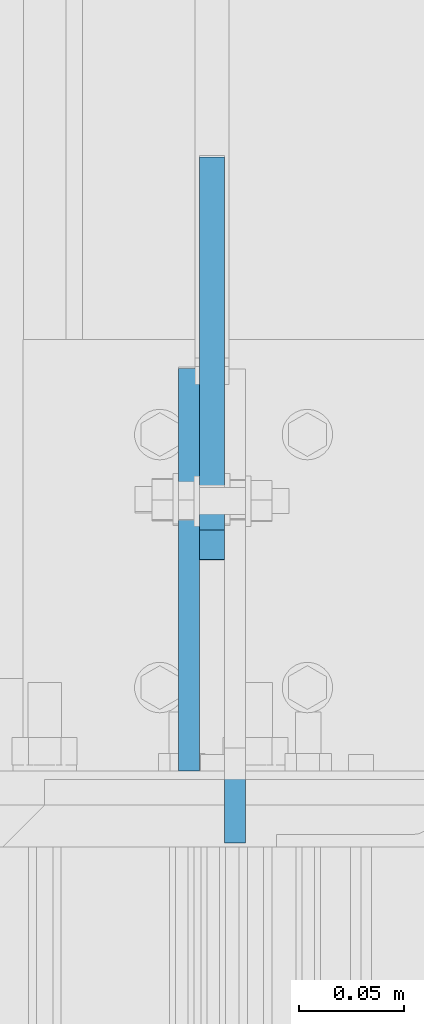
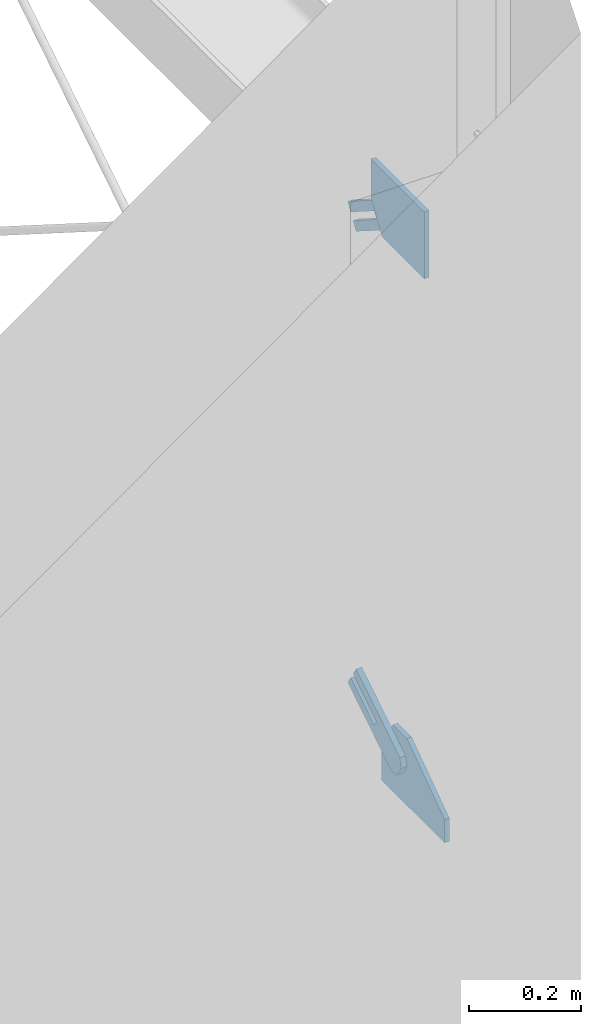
# One storey, part 158 of 271: 4 plates, 4 elements without a shape of their own.
"""IFC2X3 building model written with IfcOpenShell, lengths in millimetres."""

from ifc_helpers import new_model, si_unit, frame, origin_with_axes, place, context, subcontext, project, spatial, polyline, outline, extrude, material, type_object, element, aggregate, save


model = new_model("IFC2X3")

# Units and contexts
model_context = context("Model", 3, precision=1e-05, world=origin_with_axes())
body_context = subcontext(model_context, "Body", "Model", "MODEL_VIEW")
ifc_project = project(units=[si_unit("LENGTHUNIT", "METRE", prefix="MILLI"), si_unit("AREAUNIT", "SQUARE_METRE"), si_unit("VOLUMEUNIT", "CUBIC_METRE"), si_unit("MASSUNIT", "GRAM", prefix="KILO"), si_unit("TIMEUNIT", "SECOND"), si_unit("PLANEANGLEUNIT", "RADIAN"), si_unit("SOLIDANGLEUNIT", "STERADIAN"), si_unit("THERMODYNAMICTEMPERATUREUNIT", "DEGREE_CELSIUS"), si_unit("LUMINOUSINTENSITYUNIT", "LUMEN")], contexts=[model_context])

# Site, building, storey
site_placement = place(None, origin_with_axes())
site = spatial("IfcSite", under=ifc_project, at=site_placement, Name="Undefined", CompositionType="ELEMENT")
building_placement = place(site_placement, origin_with_axes())
building = spatial("IfcBuilding", under=site, at=building_placement, Name="Undefined", CompositionType="ELEMENT")
storey_placement = place(building_placement, origin_with_axes())
storey = spatial("IfcBuildingStorey", under=building, at=storey_placement, Name="Undefined", CompositionType="ELEMENT", Elevation=0.0)

# Assembly, plate
assembly_1_placement = place(storey_placement, origin_with_axes())
assembly_1 = element("IfcElementAssembly", 1, at=assembly_1_placement, inside=storey, AssemblyPlace="NOTDEFINED", PredefinedType="RIGID_FRAME")
ifc_material = material(Name="STEEL/S355JR")
plate_type_1 = type_object("IfcPlateType", Name="BL12*56", PredefinedType="NOTDEFINED")
plate_1_placement = place(assembly_1_placement, frame((12597.7513748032, 169.943266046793, 57.9975013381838), z_axis=(-1.0, 0.0, 1.38777878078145e-17), x_axis=(0.0, -0.975225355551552, 0.221213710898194)))
plate_1 = element("IfcPlate", 2, at=plate_1_placement, type_object=plate_type_1, material=ifc_material, Name="BLACHA", ObjectType="BL12*56", context=body_context, shape_type="SweptSolid", body=[
    extrude(outline(polyline([(0.0, 0.0), (21.2132034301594, 1.09139364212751e-11), (39.5979804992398, 18.3847751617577), (39.5979804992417, 39.5979804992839), (-91.2167739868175, 170.412734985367), (-105.358909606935, 156.270599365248), (-34.6482315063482, 85.5599212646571), (-45.9619407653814, 74.2462158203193), (-116.672622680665, 144.95689392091), (-130.814758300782, 130.814758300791), (0.0, 0.0)])), frame((0.0, 0.0, -6.0), z_axis=(0.0, 0.0, 1.0), x_axis=(1.0, 0.0, 0.0)), (0.0, 0.0, 1.0), 12.0),
])
aggregate(assembly_1, [plate_1])

assembly_2_placement = place(storey_placement, origin_with_axes())
assembly_2 = element("IfcElementAssembly", 3, at=assembly_2_placement, inside=storey, AssemblyPlace="NOTDEFINED", PredefinedType="RIGID_FRAME")
plate_2_placement = place(assembly_2_placement, frame((12597.7513748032, 170.330673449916, 1303.02310115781), z_axis=(1.0, 0.0, 0.0), x_axis=(0.0, -0.975735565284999, -0.218952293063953)))
plate_2 = element("IfcPlate", 4, at=plate_2_placement, type_object=plate_type_1, material=ifc_material, Name="BLACHA", ObjectType="BL12*56", context=body_context, shape_type="SweptSolid", body=[
    extrude(outline(polyline([(0.0, 0.0), (21.2132034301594, 1.09139364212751e-11), (39.5979804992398, 18.3847751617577), (39.5979804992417, 39.5979804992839), (-91.2167739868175, 170.412734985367), (-105.358909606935, 156.270599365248), (-34.6482315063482, 85.5599212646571), (-45.9619407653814, 74.2462158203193), (-116.672622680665, 144.95689392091), (-130.814758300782, 130.814758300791), (0.0, 0.0)])), frame((0.0, 0.0, -6.0), z_axis=(0.0, 0.0, 1.0), x_axis=(1.0, 0.0, 0.0)), (0.0, 0.0, 1.0), 12.0),
])
aggregate(assembly_2, [plate_2])

assembly_3_placement = place(storey_placement, origin_with_axes())
assembly_3 = element("IfcElementAssembly", 5, at=assembly_3_placement, inside=storey, AssemblyPlace="NOTDEFINED", PredefinedType="RIGID_FRAME")
plate_type_2 = type_object("IfcPlateType", Name="BL10*146", PredefinedType="NOTDEFINED")
plate_3_placement = place(assembly_3_placement, frame((12608.751374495, 226.035545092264, 1.21360699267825e-11), z_axis=(-1.0, 0.0, 1.38777878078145e-17), x_axis=(0.0, -1.0, 0.0)))
plate_3 = element("IfcPlate", 6, at=plate_3_placement, type_object=plate_type_2, material=ifc_material, Name="BLACHA", ObjectType="BL10*146", context=body_context, shape_type="SweptSolid", body=[
    extrude(outline(polyline([(0.0, 0.0), (224.710556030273, 0.0), (224.710556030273, 50.8241729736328), (89.7105560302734, 145.824172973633), (40.5206718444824, 145.824172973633), (0.0, 81.5274047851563), (0.0, 0.0)])), frame((0.0, 0.0, -5.0), z_axis=(0.0, 0.0, 1.0), x_axis=(1.0, 0.0, 0.0)), (0.0, 0.0, 1.0), 10.0),
])
aggregate(assembly_3, [plate_3])

assembly_4_placement = place(storey_placement, origin_with_axes())
assembly_4 = element("IfcElementAssembly", 7, at=assembly_4_placement, inside=storey, AssemblyPlace="NOTDEFINED", PredefinedType="RIGID_FRAME")
plate_4_placement = place(assembly_4_placement, frame((12586.7513748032, 226.368253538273, 1361.04999995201), z_axis=(1.0, 0.0, 0.0), x_axis=(0.0, -1.0, 0.0)))
plate_4 = element("IfcPlate", 8, at=plate_4_placement, type_object=plate_type_2, material=ifc_material, Name="BLACHA", ObjectType="BL10*146", context=body_context, shape_type="SweptSolid", body=[
    extrude(outline(polyline([(0.0, 0.0), (191.043273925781, 0.0), (191.043273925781, 145.889434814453), (40.669620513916, 145.889434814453), (0.0, 81.6867752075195), (0.0, 0.0)])), frame((0.0, 0.0, -5.0), z_axis=(0.0, 0.0, 1.0), x_axis=(1.0, 0.0, 0.0)), (0.0, 0.0, 1.0), 10.0),
])
aggregate(assembly_4, [plate_4])

save(model, "model.ifc")
